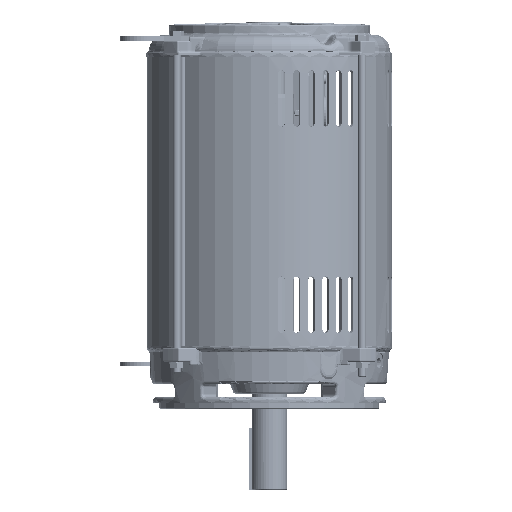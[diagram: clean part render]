
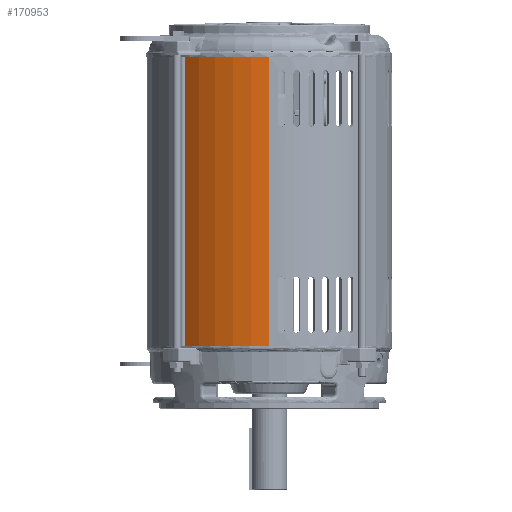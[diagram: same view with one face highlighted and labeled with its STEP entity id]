
A CAD part, left-side view. The second image highlights one B-rep face of the part: STEP entity #170953.
In plain terms, the highlighted cylindrical face has radius 120.51 mm (diameter 241.021 mm), a partial arc.
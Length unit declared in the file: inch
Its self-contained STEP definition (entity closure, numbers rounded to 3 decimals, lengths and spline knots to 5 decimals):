
#704 = EDGE_CURVE ( 'NONE', #11539, #16341, #141553, .T. ) ;
#3256 = VECTOR ( 'NONE', #205513, 39.37008 ) ;
#11232 = ORIENTED_EDGE ( 'NONE', *, *, #156025, .T. ) ;
#11539 = VERTEX_POINT ( 'NONE', #159261 ) ;
#16181 = DIRECTION ( 'NONE',  ( 1., 0., 0. ) ) ;
#16341 = VERTEX_POINT ( 'NONE', #141317 ) ;
#29286 = ORIENTED_EDGE ( 'NONE', *, *, #59179, .T. ) ;
#35938 = DIRECTION ( 'NONE',  ( 0., 0., -1. ) ) ;
#41782 = EDGE_CURVE ( 'NONE', #188129, #157313, #47022, .T. ) ;
#47022 = CIRCLE ( 'NONE', #158686, 4.7445 ) ;
#50136 = DIRECTION ( 'NONE',  ( 0., 0., 1. ) ) ;
#54821 = DIRECTION ( 'NONE',  ( -1., 0., 0. ) ) ;
#59179 = EDGE_CURVE ( 'NONE', #188129, #11539, #188570, .T. ) ;
#65558 = AXIS2_PLACEMENT_3D ( 'NONE', #105382, #50136, #16181 ) ;
#69848 = CARTESIAN_POINT ( 'NONE',  ( 0., 0., -5.575 ) ) ;
#77147 = CARTESIAN_POINT ( 'NONE',  ( -3.44208, 3.26532, 0. ) ) ;
#93393 = DIRECTION ( 'NONE',  ( -1., 0., 0. ) ) ;
#99773 = EDGE_LOOP ( 'NONE', ( #168318, #29286, #172179, #11232 ) ) ;
#105382 = CARTESIAN_POINT ( 'NONE',  ( 0., 0., -5.575 ) ) ;
#106863 = CARTESIAN_POINT ( 'NONE',  ( -4.7445, 0., -5.575 ) ) ;
#117388 = CARTESIAN_POINT ( 'NONE',  ( -4.7445, 0., -5.575 ) ) ;
#128998 = DIRECTION ( 'NONE',  ( 0., 0., -1. ) ) ;
#141317 = CARTESIAN_POINT ( 'NONE',  ( -3.44208, 3.26532, 5.575 ) ) ;
#141553 = CIRCLE ( 'NONE', #195809, 4.7445 ) ;
#153948 = FACE_OUTER_BOUND ( 'NONE', #99773, .T. ) ;
#156025 = EDGE_CURVE ( 'NONE', #16341, #157313, #176886, .T. ) ;
#157295 = CYLINDRICAL_SURFACE ( 'NONE', #65558, 4.7445 ) ;
#157313 = VERTEX_POINT ( 'NONE', #204659 ) ;
#158619 = CARTESIAN_POINT ( 'NONE',  ( 0., 0., 5.575 ) ) ;
#158686 = AXIS2_PLACEMENT_3D ( 'NONE', #69848, #35938, #93393 ) ;
#159261 = CARTESIAN_POINT ( 'NONE',  ( -4.7445, 0., 5.575 ) ) ;
#168318 = ORIENTED_EDGE ( 'NONE', *, *, #41782, .F. ) ;
#170953 = ADVANCED_FACE ( 'NONE', ( #153948 ), #157295, .T. ) ;
#172179 = ORIENTED_EDGE ( 'NONE', *, *, #704, .T. ) ;
#176886 = LINE ( 'NONE', #77147, #213433 ) ;
#188129 = VERTEX_POINT ( 'NONE', #106863 ) ;
#188570 = LINE ( 'NONE', #117388, #3256 ) ;
#195809 = AXIS2_PLACEMENT_3D ( 'NONE', #158619, #208421, #54821 ) ;
#204659 = CARTESIAN_POINT ( 'NONE',  ( -3.44208, 3.26532, -5.575 ) ) ;
#205513 = DIRECTION ( 'NONE',  ( 0., 0., 1. ) ) ;
#208421 = DIRECTION ( 'NONE',  ( 0., 0., -1. ) ) ;
#213433 = VECTOR ( 'NONE', #128998, 39.37008 ) ;
